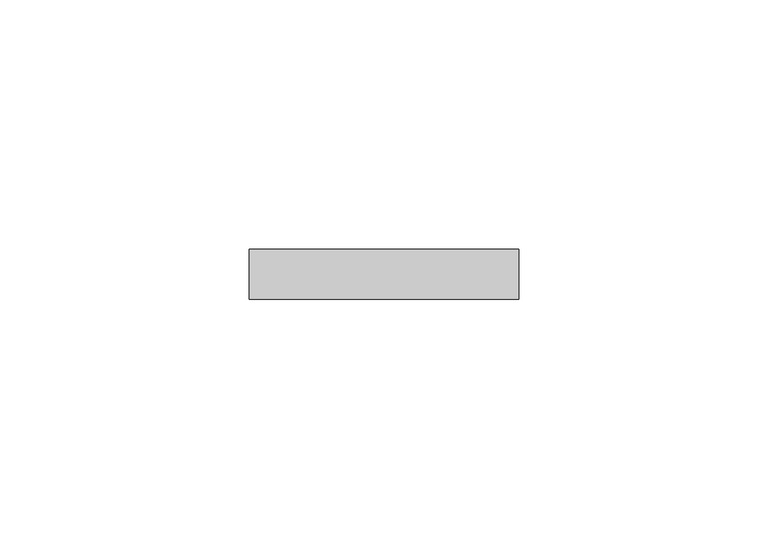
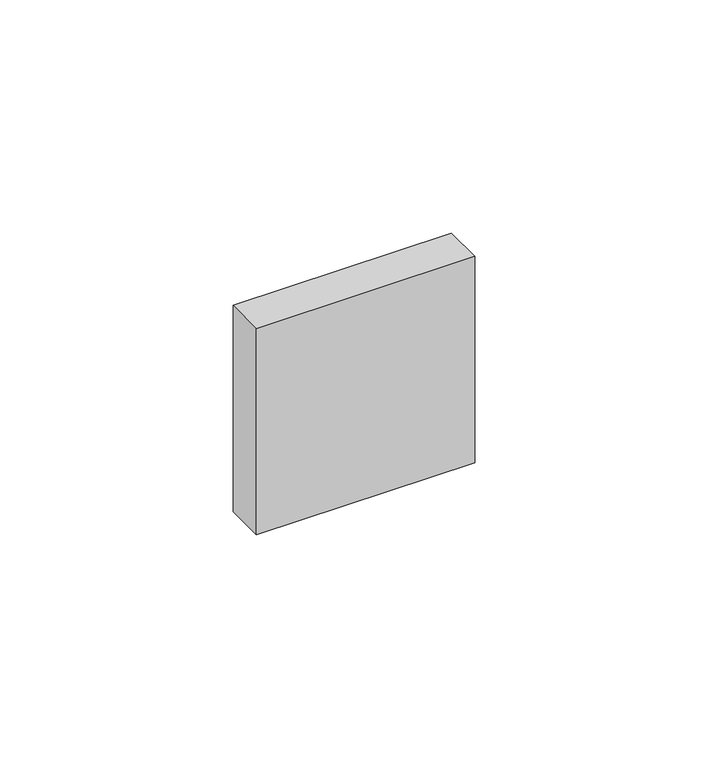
"""IFC4 building model written with IfcOpenShell, lengths in millimetres: proxy geometry, IEK_Brite_Заглушка с суппортом : МЗ10-БрА."""

from ifc_helpers import new_model, si_unit, frame, origin, place, context, project, spatial, polyline, outline, extrude, source, transform, mapped, element, save


def electrical_fixtures_062ad867(model_context):
    return source(origin(), model_context, "Body", "SweptSolid", [
        extrude(outline(polyline([(27.0, 0.0), (-27.0, 0.0), (-27.0, 10.0), (27.0, 10.0), (27.0, 0.0)])), frame((0.0, 0.0, -27.0), z_axis=(0.0, 0.0, 1.0), x_axis=(1.0, 0.0, 0.0)), (0.0, 0.0, 1.0), 54.0),
    ])


if __name__ == "__main__":
    model = new_model("IFC4")
    model_context = context("Model", 3, world=origin())
    ifc_project = project(units=[si_unit("LENGTHUNIT", "METRE", prefix="MILLI")], contexts=[model_context])
    site = spatial("IfcSite", under=ifc_project)
    building = spatial("IfcBuilding", under=site)
    placement = place(None, origin())
    electrical_fixtures_shape = electrical_fixtures_062ad867(model_context)
    element("IfcBuildingElementProxy", 1, Name="IEK_Brite_Заглушка с суппортом : МЗ10-БрА", ObjectType="IEK_Brite_Заглушка с суппортом : МЗ10-БрА", at=placement, inside=building, context=model_context, shape_type="MappedRepresentation", body=[
        mapped(electrical_fixtures_shape, transform((0.0, 0.0, 0.0), x_axis=(1.0, 0.0, 0.0), y_axis=(0.0, 1.0, 0.0), z_axis=(0.0, 0.0, 1.0))),
    ])
    save(model, "model.ifc")
